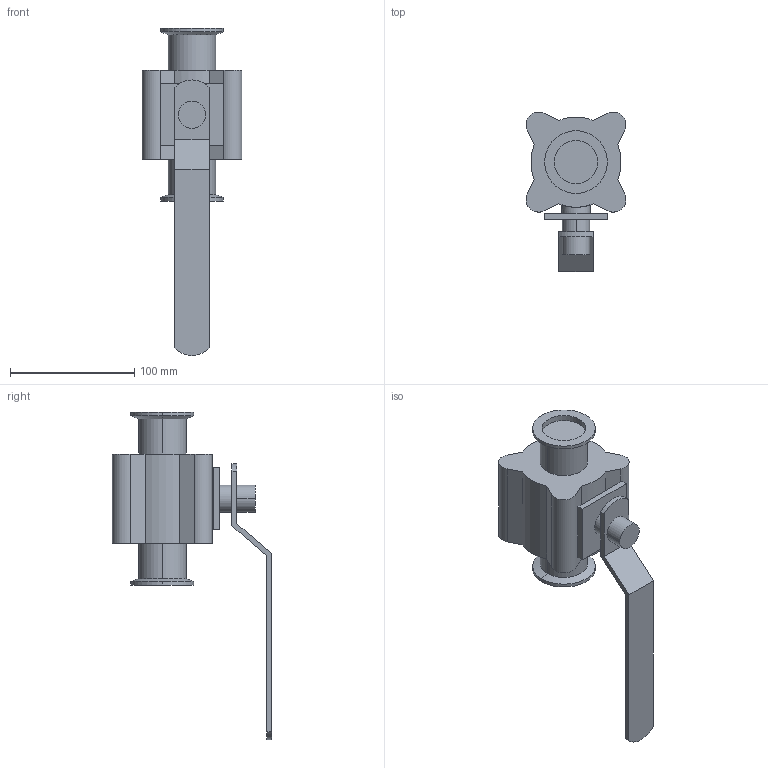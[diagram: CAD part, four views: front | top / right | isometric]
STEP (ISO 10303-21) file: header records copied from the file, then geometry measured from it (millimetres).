
FILE_DESCRIPTION(('Creo Elements/Direct Modeling STEP Export'),'2;1');
FILE_NAME('BLV1-1.5T-H-12CL.stp','2019-05-10T 7:58:12',(''),(''),'Creo Elements/Direct Modeling STEP processor for AP214 (Solid Model)','Creo Elements/Direct Modeling 19.0F 14-Feb-2017 (C) Parametric Technology GmbH','');
FILE_SCHEMA(('AUTOMOTIVE_DESIGN { 1 0 10303 214 1 1 1 1 }'));
Length unit declared in the file: millimetre
Products named in the file (1): BLV1-1.5T-H-12CL
Bounding box: 80.49 x 128.24 x 263.5 mm (x, y, z)
Volume: 518209.5 mm3; surface area: 67791.9 mm2
Topology: 1 solids, 1 shells, 61 faces, 142 edges, 92 vertices
Faces by surface type: plane 29, cylinder 28, cone 4
Entity records: 1748 total; most frequent: CARTESIAN_POINT 348, DIRECTION 284, ORIENTED_EDGE 284, EDGE_CURVE 142, AXIS2_PLACEMENT_3D 99, VERTEX_POINT 92, VECTOR 86, LINE 86
